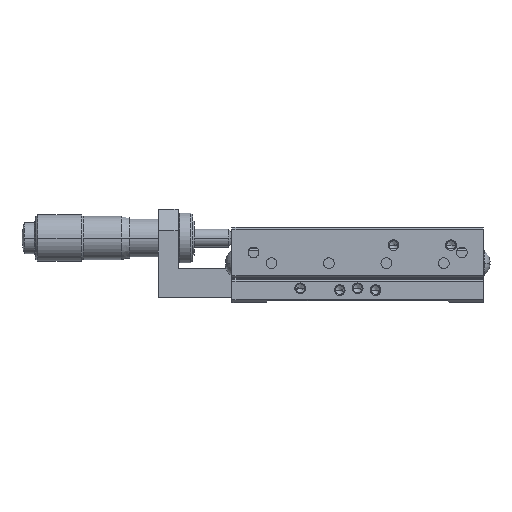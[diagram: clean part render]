
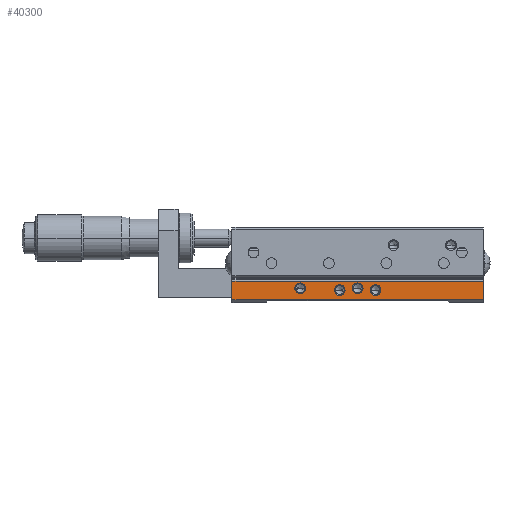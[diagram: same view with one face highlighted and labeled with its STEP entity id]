
A CAD part, left-side view. The second image highlights one B-rep face of the part: STEP entity #40300.
In plain terms, the highlighted planar face has unit normal (-1, 0, 0).
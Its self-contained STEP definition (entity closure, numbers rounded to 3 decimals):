
#2490 = VERTEX_POINT ( 'NONE', #11085 ) ;
#2492 = EDGE_CURVE ( 'NONE', #2490, #2540, #11084, .T. ) ;
#2540 = VERTEX_POINT ( 'NONE', #11173 ) ;
#2553 = VERTEX_POINT ( 'NONE', #11208 ) ;
#2559 = VERTEX_POINT ( 'NONE', #11197 ) ;
#2561 = EDGE_CURVE ( 'NONE', #2559, #2562, #11196, .T. ) ;
#2562 = VERTEX_POINT ( 'NONE', #11191 ) ;
#2595 = EDGE_CURVE ( 'NONE', #2553, #2596, #11304, .T. ) ;
#2596 = VERTEX_POINT ( 'NONE', #11299 ) ;
#2662 = VERTEX_POINT ( 'NONE', #11419 ) ;
#2664 = EDGE_CURVE ( 'NONE', #2662, #2665, #11418, .T. ) ;
#2665 = VERTEX_POINT ( 'NONE', #11413 ) ;
#11080 = DIRECTION ( 'NONE',  ( 0., 1., 0. ) ) ;
#11081 = DIRECTION ( 'NONE',  ( -1., 0., 0. ) ) ;
#11082 = CARTESIAN_POINT ( 'NONE',  ( -35., -5., 3.5 ) ) ;
#11083 = AXIS2_PLACEMENT_3D ( 'NONE', #11082, #11081, #11080 ) ;
#11084 = CIRCLE ( 'NONE', #11083, 1.5 ) ;
#11085 = CARTESIAN_POINT ( 'NONE',  ( -35., -6.5, 3.5 ) ) ;
#11173 = CARTESIAN_POINT ( 'NONE',  ( -35., -3.5, 3.5 ) ) ;
#11191 = CARTESIAN_POINT ( 'NONE',  ( -35., 3.5, 3.5 ) ) ;
#11192 = DIRECTION ( 'NONE',  ( 0., -1., 0. ) ) ;
#11193 = DIRECTION ( 'NONE',  ( -1., 0., 0. ) ) ;
#11194 = CARTESIAN_POINT ( 'NONE',  ( -35., 5., 3.5 ) ) ;
#11195 = AXIS2_PLACEMENT_3D ( 'NONE', #11194, #11193, #11192 ) ;
#11196 = CIRCLE ( 'NONE', #11195, 1.5 ) ;
#11197 = CARTESIAN_POINT ( 'NONE',  ( -35., 6.5, 3.5 ) ) ;
#11208 = CARTESIAN_POINT ( 'NONE',  ( -35., 1.5, 4. ) ) ;
#11299 = CARTESIAN_POINT ( 'NONE',  ( -35., -1.5, 4. ) ) ;
#11300 = DIRECTION ( 'NONE',  ( 0., -1., 0. ) ) ;
#11301 = DIRECTION ( 'NONE',  ( -1., 0., 0. ) ) ;
#11302 = CARTESIAN_POINT ( 'NONE',  ( -35., 0., 4. ) ) ;
#11303 = AXIS2_PLACEMENT_3D ( 'NONE', #11302, #11301, #11300 ) ;
#11304 = CIRCLE ( 'NONE', #11303, 1.5 ) ;
#11413 = CARTESIAN_POINT ( 'NONE',  ( -35., 14.5, 4. ) ) ;
#11414 = DIRECTION ( 'NONE',  ( 0., -1., 0. ) ) ;
#11415 = DIRECTION ( 'NONE',  ( -1., 0., 0. ) ) ;
#11416 = CARTESIAN_POINT ( 'NONE',  ( -35., 16., 4. ) ) ;
#11417 = AXIS2_PLACEMENT_3D ( 'NONE', #11416, #11415, #11414 ) ;
#11418 = CIRCLE ( 'NONE', #11417, 1.5 ) ;
#11419 = CARTESIAN_POINT ( 'NONE',  ( -35., 17.5, 4. ) ) ;
#20865 = CARTESIAN_POINT ( 'NONE',  ( -35., 35., 6. ) ) ;
#20866 = DIRECTION ( 'NONE',  ( 0., 0., 1. ) ) ;
#20867 = VECTOR ( 'NONE', #20866, 1000. ) ;
#20868 = CARTESIAN_POINT ( 'NONE',  ( -35., 35., 0.8 ) ) ;
#20869 = LINE ( 'NONE', #20868, #20867 ) ;
#20870 = CARTESIAN_POINT ( 'NONE',  ( -35., 35., 0.8 ) ) ;
#22016 = CARTESIAN_POINT ( 'NONE',  ( -35., -35., 0.8 ) ) ;
#22049 = FACE_OUTER_BOUND ( 'NONE', #40605, .T. ) ;
#22050 = FACE_BOUND ( 'NONE', #40313, .T. ) ;
#22051 = FACE_BOUND ( 'NONE', #40309, .T. ) ;
#22055 = FACE_BOUND ( 'NONE', #40305, .T. ) ;
#22056 = FACE_BOUND ( 'NONE', #40301, .T. ) ;
#22079 = DIRECTION ( 'NONE',  ( 0., 1., 0. ) ) ;
#22080 = VECTOR ( 'NONE', #22079, 1000. ) ;
#22081 = CARTESIAN_POINT ( 'NONE',  ( -35., -35., 0.8 ) ) ;
#22082 = LINE ( 'NONE', #22081, #22080 ) ;
#22096 = DIRECTION ( 'NONE',  ( 0., -1., 0. ) ) ;
#22097 = DIRECTION ( 'NONE',  ( -1., 0., 0. ) ) ;
#22098 = CARTESIAN_POINT ( 'NONE',  ( -35., 5., 3.5 ) ) ;
#22099 = AXIS2_PLACEMENT_3D ( 'NONE', #22098, #22097, #22096 ) ;
#22100 = CIRCLE ( 'NONE', #22099, 1.5 ) ;
#22101 = DIRECTION ( 'NONE',  ( 0., -1., 0. ) ) ;
#22102 = DIRECTION ( 'NONE',  ( -1., 0., 0. ) ) ;
#22103 = CARTESIAN_POINT ( 'NONE',  ( -35., 0., 4. ) ) ;
#22104 = AXIS2_PLACEMENT_3D ( 'NONE', #22103, #22102, #22101 ) ;
#22105 = CIRCLE ( 'NONE', #22104, 1.5 ) ;
#22106 = DIRECTION ( 'NONE',  ( 0., 1., 0. ) ) ;
#22107 = DIRECTION ( 'NONE',  ( -1., 0., 0. ) ) ;
#22108 = AXIS2_PLACEMENT_3D ( 'NONE', #22114, #22107, #22106 ) ;
#22109 = CIRCLE ( 'NONE', #22108, 1.5 ) ;
#22110 = DIRECTION ( 'NONE',  ( 0., 1., 0. ) ) ;
#22111 = DIRECTION ( 'NONE',  ( -1., 0., 0. ) ) ;
#22112 = CARTESIAN_POINT ( 'NONE',  ( -35., -35., 0.8 ) ) ;
#22113 = AXIS2_PLACEMENT_3D ( 'NONE', #22112, #22111, #22110 ) ;
#22114 = CARTESIAN_POINT ( 'NONE',  ( -35., -5., 3.5 ) ) ;
#22115 = PLANE ( 'NONE',  #22113 ) ;
#22412 = DIRECTION ( 'NONE',  ( 0., 1., 0. ) ) ;
#22413 = VECTOR ( 'NONE', #22412, 1000. ) ;
#22414 = CARTESIAN_POINT ( 'NONE',  ( -35., -35., 6. ) ) ;
#22415 = LINE ( 'NONE', #22414, #22413 ) ;
#22416 = CARTESIAN_POINT ( 'NONE',  ( -35., -35., 6. ) ) ;
#22417 = DIRECTION ( 'NONE',  ( 0., 0., 1. ) ) ;
#22418 = VECTOR ( 'NONE', #22417, 1000. ) ;
#22419 = CARTESIAN_POINT ( 'NONE',  ( -35., -35., 0.8 ) ) ;
#22420 = LINE ( 'NONE', #22419, #22418 ) ;
#22547 = DIRECTION ( 'NONE',  ( 0., -1., 0. ) ) ;
#22548 = DIRECTION ( 'NONE',  ( -1., 0., 0. ) ) ;
#22549 = CARTESIAN_POINT ( 'NONE',  ( -35., 16., 4. ) ) ;
#22550 = AXIS2_PLACEMENT_3D ( 'NONE', #22549, #22548, #22547 ) ;
#22551 = CIRCLE ( 'NONE', #22550, 1.5 ) ;
#39184 = VERTEX_POINT ( 'NONE', #20870 ) ;
#39189 = EDGE_CURVE ( 'NONE', #39184, #39190, #20869, .T. ) ;
#39190 = VERTEX_POINT ( 'NONE', #20865 ) ;
#40279 = VERTEX_POINT ( 'NONE', #22016 ) ;
#40281 = EDGE_CURVE ( 'NONE', #40279, #39184, #22082, .T. ) ;
#40300 = ADVANCED_FACE ( 'NONE', ( #22056, #22055, #22051, #22050, #22049 ), #22115, .T. ) ;
#40301 = EDGE_LOOP ( 'NONE', ( #40302, #40304 ) ) ;
#40302 = ORIENTED_EDGE ( 'NONE', *, *, #40303, .F. ) ;
#40303 = EDGE_CURVE ( 'NONE', #2540, #2490, #22109, .T. ) ;
#40304 = ORIENTED_EDGE ( 'NONE', *, *, #2492, .F. ) ;
#40305 = EDGE_LOOP ( 'NONE', ( #40306, #40308 ) ) ;
#40306 = ORIENTED_EDGE ( 'NONE', *, *, #40307, .F. ) ;
#40307 = EDGE_CURVE ( 'NONE', #2596, #2553, #22105, .T. ) ;
#40308 = ORIENTED_EDGE ( 'NONE', *, *, #2595, .F. ) ;
#40309 = EDGE_LOOP ( 'NONE', ( #40310, #40312 ) ) ;
#40310 = ORIENTED_EDGE ( 'NONE', *, *, #40311, .F. ) ;
#40311 = EDGE_CURVE ( 'NONE', #2562, #2559, #22100, .T. ) ;
#40312 = ORIENTED_EDGE ( 'NONE', *, *, #2561, .F. ) ;
#40313 = EDGE_LOOP ( 'NONE', ( #40602, #40604 ) ) ;
#40528 = ORIENTED_EDGE ( 'NONE', *, *, #40281, .F. ) ;
#40529 = ORIENTED_EDGE ( 'NONE', *, *, #40530, .T. ) ;
#40530 = EDGE_CURVE ( 'NONE', #40279, #40531, #22420, .T. ) ;
#40531 = VERTEX_POINT ( 'NONE', #22416 ) ;
#40532 = ORIENTED_EDGE ( 'NONE', *, *, #40533, .T. ) ;
#40533 = EDGE_CURVE ( 'NONE', #40531, #39190, #22415, .T. ) ;
#40602 = ORIENTED_EDGE ( 'NONE', *, *, #40603, .F. ) ;
#40603 = EDGE_CURVE ( 'NONE', #2665, #2662, #22551, .T. ) ;
#40604 = ORIENTED_EDGE ( 'NONE', *, *, #2664, .F. ) ;
#40605 = EDGE_LOOP ( 'NONE', ( #40606, #40528, #40529, #40532 ) ) ;
#40606 = ORIENTED_EDGE ( 'NONE', *, *, #39189, .F. ) ;
